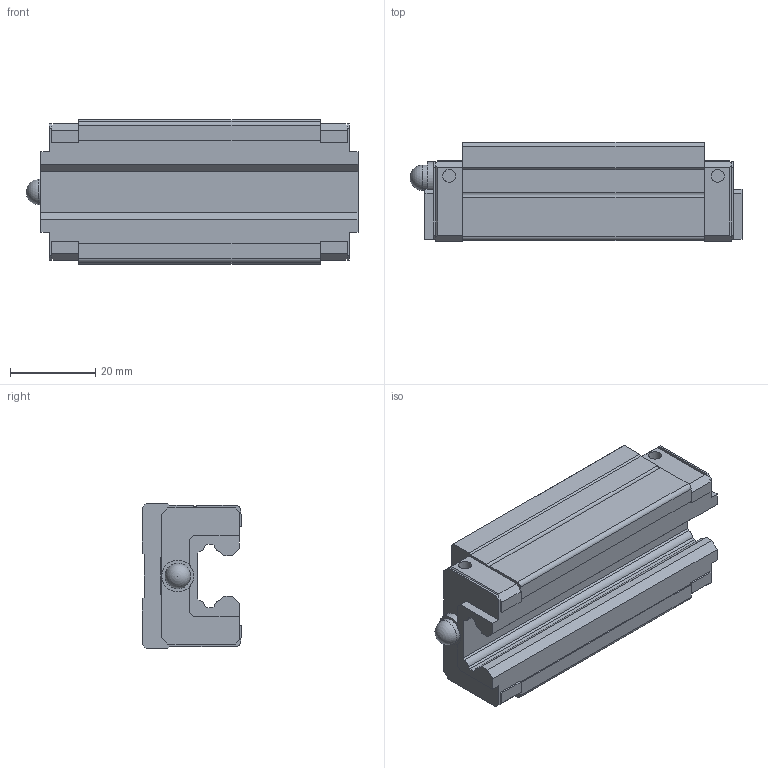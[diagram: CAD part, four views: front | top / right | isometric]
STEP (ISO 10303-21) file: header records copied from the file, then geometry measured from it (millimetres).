
FILE_DESCRIPTION(/* description */ ('STEP AP214'),/* implementation_level */ '2;1');
FILE_NAME(/* name */ 'HSR15LR1SS(GK) BLOCK(PB1021B1)',/* time_stamp */ '2023-06-01T07:53:39+02:00',/* author */ ('License CC BY-ND 4.0'),/* organization */ ('CADENAS'),/* preprocessor_version */ 'ST-DEVELOPER v19.3',/* originating_system */ 'PARTsolutions',/* authorisation */ ' ');
FILE_SCHEMA (('AUTOMOTIVE_DESIGN {1 0 10303 214 3 1 1}'));
Length unit declared in the file: millimetre
Products named in the file (3): HSR15LR1SS(GK) BLOCK(PB1021B1); hsr_ftht_PB1021B_grease_nipple_joint; HSR15LRSSPB1021B11R2S
Assembly tree (2 placements, depth 2):
  HSR15LR1SS(GK) BLOCK(PB1021B1)
    hsr_ftht_PB1021B_grease_nipple_joint
    HSR15LRSSPB1021B11R2S
Bounding box: 78.1 x 23.3 x 34 mm (x, y, z)
Volume: 43132.3 mm3; surface area: 11841.5 mm2
Topology: 2 solids, 2 shells, 155 faces, 410 edges, 268 vertices
Faces by surface type: plane 118, cylinder 28, cone 8, sphere 1
Full cylindrical faces by diameter (mm): 3 x4, 3.242 x4, 4 x3, 5.1 x2, 6 x1, 7.5 x1
Entity records: 4653 total; most frequent: CARTESIAN_POINT 804, ORIENTED_EDGE 760, DIRECTION 756, EDGE_CURVE 380, LINE 320, VECTOR 320, VERTEX_POINT 266, AXIS2_PLACEMENT_3D 218
